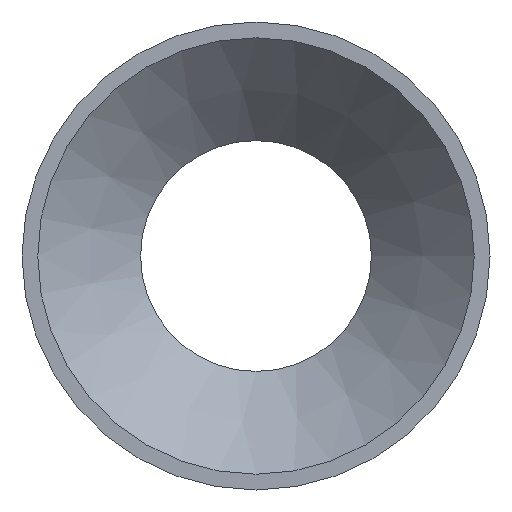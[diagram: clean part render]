
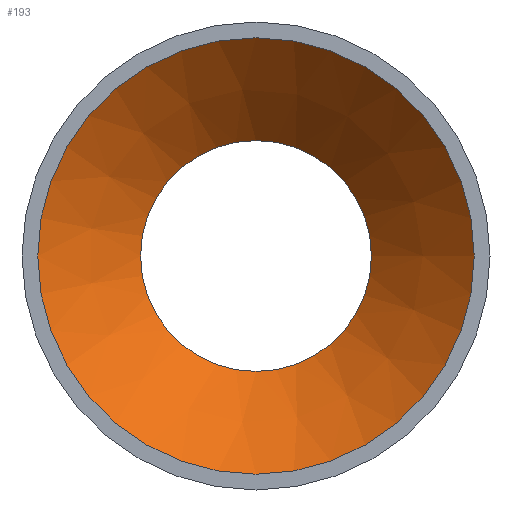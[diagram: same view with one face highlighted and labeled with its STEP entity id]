
A CAD part, front view. The second image highlights one B-rep face of the part: STEP entity #193.
In plain terms, the highlighted conical face has half-angle 45 degrees and reference radius 37.075 mm.
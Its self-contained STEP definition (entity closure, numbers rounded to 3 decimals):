
#22=CONICAL_SURFACE('',#239,37.075,0.785);
#30=FACE_OUTER_BOUND('',#42,.T.);
#42=EDGE_LOOP('',(#165,#166,#167,#168,#169,#170));
#51=LINE('',#362,#58);
#58=VECTOR('',#301,37.075);
#74=CIRCLE('',#237,25.65);
#75=CIRCLE('',#238,25.65);
#76=CIRCLE('',#240,48.5);
#77=CIRCLE('',#241,48.5);
#94=VERTEX_POINT('',#355);
#95=VERTEX_POINT('',#357);
#96=VERTEX_POINT('',#361);
#97=VERTEX_POINT('',#363);
#119=EDGE_CURVE('',#95,#94,#74,.T.);
#120=EDGE_CURVE('',#94,#95,#75,.T.);
#121=EDGE_CURVE('',#94,#96,#51,.T.);
#122=EDGE_CURVE('',#97,#96,#76,.T.);
#123=EDGE_CURVE('',#96,#97,#77,.T.);
#165=ORIENTED_EDGE('',*,*,#119,.T.);
#166=ORIENTED_EDGE('',*,*,#121,.T.);
#167=ORIENTED_EDGE('',*,*,#122,.F.);
#168=ORIENTED_EDGE('',*,*,#123,.F.);
#169=ORIENTED_EDGE('',*,*,#121,.F.);
#170=ORIENTED_EDGE('',*,*,#120,.T.);
#193=ADVANCED_FACE('',(#30),#22,.F.);
#237=AXIS2_PLACEMENT_3D('',#358,#295,#296);
#238=AXIS2_PLACEMENT_3D('',#359,#297,#298);
#239=AXIS2_PLACEMENT_3D('',#360,#299,#300);
#240=AXIS2_PLACEMENT_3D('',#364,#302,#303);
#241=AXIS2_PLACEMENT_3D('',#365,#304,#305);
#295=DIRECTION('center_axis',(0.,1.,0.));
#296=DIRECTION('ref_axis',(-1.,0.,0.));
#297=DIRECTION('center_axis',(0.,1.,0.));
#298=DIRECTION('ref_axis',(-1.,0.,0.));
#299=DIRECTION('center_axis',(0.,-1.,0.));
#300=DIRECTION('ref_axis',(-1.,0.,0.));
#301=DIRECTION('',(0.707,-0.707,0.));
#302=DIRECTION('center_axis',(0.,1.,0.));
#303=DIRECTION('ref_axis',(-1.,0.,0.));
#304=DIRECTION('center_axis',(0.,1.,0.));
#305=DIRECTION('ref_axis',(-1.,0.,0.));
#355=CARTESIAN_POINT('',(25.65,56.,0.));
#357=CARTESIAN_POINT('',(-25.65,56.,0.));
#358=CARTESIAN_POINT('Origin',(0.,56.,0.));
#359=CARTESIAN_POINT('Origin',(0.,56.,0.));
#360=CARTESIAN_POINT('Origin',(0.,44.575,0.));
#361=CARTESIAN_POINT('',(48.5,33.15,0.));
#362=CARTESIAN_POINT('',(37.075,44.575,0.));
#363=CARTESIAN_POINT('',(-48.5,33.15,0.));
#364=CARTESIAN_POINT('Origin',(0.,33.15,0.));
#365=CARTESIAN_POINT('Origin',(0.,33.15,0.));
